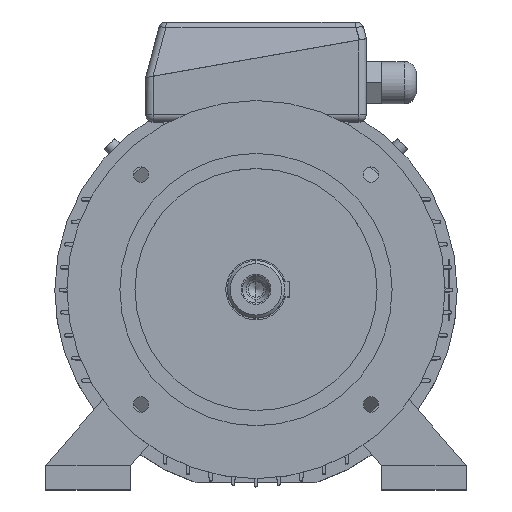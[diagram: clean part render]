
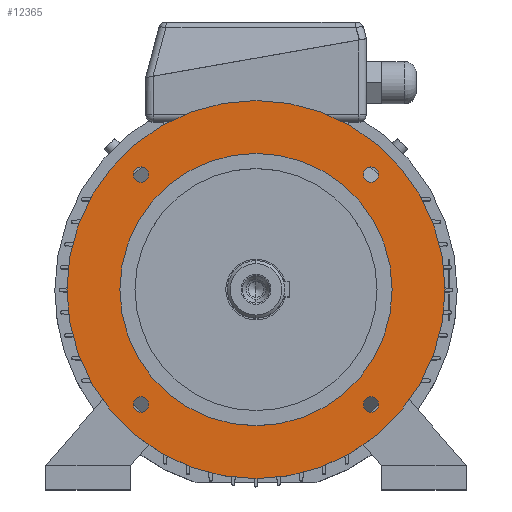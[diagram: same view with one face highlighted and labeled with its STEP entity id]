
A CAD part, top view. The second image highlights one B-rep face of the part: STEP entity #12365.
In plain terms, the highlighted planar face has unit normal (0, 0, 1).
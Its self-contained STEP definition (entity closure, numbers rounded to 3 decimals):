
#16497 = ORIENTED_EDGE ( 'NONE', *, *, #4752, .T. ) ;
#181 = CARTESIAN_POINT ( 'NONE',  ( 81.114, 76.014, 58. ) ) ;
#16644 = CARTESIAN_POINT ( 'NONE',  ( -90., 0., 58. ) ) ;
#370 = ORIENTED_EDGE ( 'NONE', *, *, #19986, .F. ) ;
#16780 = CARTESIAN_POINT ( 'NONE',  ( 90., 0., 58. ) ) ;
#437 = CIRCLE ( 'NONE', #438, 5.1 ) ;
#438 = AXIS2_PLACEMENT_3D ( 'NONE', #439, #440, #447 ) ;
#439 = CARTESIAN_POINT ( 'NONE',  ( 76.014, 76.014, 58. ) ) ;
#440 = DIRECTION ( 'NONE',  ( 0., 0., 1. ) ) ;
#447 = DIRECTION ( 'NONE',  ( 1., 0., 0. ) ) ;
#16939 = CIRCLE ( 'NONE', #16940, 90. ) ;
#16940 = AXIS2_PLACEMENT_3D ( 'NONE', #16941, #16942, #16943 ) ;
#16941 = CARTESIAN_POINT ( 'NONE',  ( 0., 0., 58. ) ) ;
#16942 = DIRECTION ( 'NONE',  ( 0., 0., 1. ) ) ;
#16943 = DIRECTION ( 'NONE',  ( 1., 0., 0. ) ) ;
#16984 = CARTESIAN_POINT ( 'NONE',  ( -81.114, 76.014, 58. ) ) ;
#17108 = EDGE_LOOP ( 'NONE', ( #16497, #4493 ) ) ;
#17232 = VERTEX_POINT ( 'NONE', #19898 ) ;
#17402 = EDGE_CURVE ( 'NONE', #13299, #13557, #20002, .T. ) ;
#1140 = CARTESIAN_POINT ( 'NONE',  ( 70.914, 76.014, 58. ) ) ;
#1173 = EDGE_LOOP ( 'NONE', ( #370, #19353 ) ) ;
#17793 = VERTEX_POINT ( 'NONE', #181 ) ;
#1453 = ORIENTED_EDGE ( 'NONE', *, *, #18062, .F. ) ;
#17839 = ORIENTED_EDGE ( 'NONE', *, *, #17402, .F. ) ;
#18062 = EDGE_CURVE ( 'NONE', #19112, #17793, #437, .T. ) ;
#1775 = CIRCLE ( 'NONE', #1783, 5.1 ) ;
#1783 = AXIS2_PLACEMENT_3D ( 'NONE', #1784, #1785, #1786 ) ;
#1784 = CARTESIAN_POINT ( 'NONE',  ( -76.014, -76.014, 58. ) ) ;
#1785 = DIRECTION ( 'NONE',  ( 0., 0., 1. ) ) ;
#1786 = DIRECTION ( 'NONE',  ( 1., 0., 0. ) ) ;
#18449 = ORIENTED_EDGE ( 'NONE', *, *, #13822, .F. ) ;
#2170 = ORIENTED_EDGE ( 'NONE', *, *, #12827, .F. ) ;
#2177 = VERTEX_POINT ( 'NONE', #5308 ) ;
#2261 = EDGE_CURVE ( 'NONE', #2600, #2177, #5619, .T. ) ;
#2352 = EDGE_CURVE ( 'NONE', #12562, #13891, #5849, .T. ) ;
#2467 = ORIENTED_EDGE ( 'NONE', *, *, #2352, .F. ) ;
#2600 = VERTEX_POINT ( 'NONE', #6732 ) ;
#2638 = EDGE_LOOP ( 'NONE', ( #2467, #2170 ) ) ;
#19067 = EDGE_LOOP ( 'NONE', ( #18449, #17839 ) ) ;
#2713 = ORIENTED_EDGE ( 'NONE', *, *, #2261, .F. ) ;
#19112 = VERTEX_POINT ( 'NONE', #1140 ) ;
#2881 = EDGE_CURVE ( 'NONE', #2177, #2600, #7664, .T. ) ;
#19353 = ORIENTED_EDGE ( 'NONE', *, *, #5659, .F. ) ;
#3198 = ORIENTED_EDGE ( 'NONE', *, *, #2881, .F. ) ;
#19898 = CARTESIAN_POINT ( 'NONE',  ( -125., 0., 58. ) ) ;
#19986 = EDGE_CURVE ( 'NONE', #5405, #6746, #1775, .T. ) ;
#20002 = CIRCLE ( 'NONE', #20003, 90. ) ;
#20003 = AXIS2_PLACEMENT_3D ( 'NONE', #20004, #20016, #20017 ) ;
#20004 = CARTESIAN_POINT ( 'NONE',  ( 0., 0., 58. ) ) ;
#20016 = DIRECTION ( 'NONE',  ( 0., 0., 1. ) ) ;
#20017 = DIRECTION ( 'NONE',  ( 1., 0., 0. ) ) ;
#3805 = EDGE_LOOP ( 'NONE', ( #3198, #2713 ) ) ;
#4093 = EDGE_CURVE ( 'NONE', #17232, #4538, #8536, .T. ) ;
#4493 = ORIENTED_EDGE ( 'NONE', *, *, #4093, .T. ) ;
#4538 = VERTEX_POINT ( 'NONE', #9085 ) ;
#4752 = EDGE_CURVE ( 'NONE', #4538, #17232, #9209, .T. ) ;
#5308 = CARTESIAN_POINT ( 'NONE',  ( 81.114, -76.014, 58. ) ) ;
#5405 = VERTEX_POINT ( 'NONE', #9653 ) ;
#5619 = CIRCLE ( 'NONE', #5620, 5.1 ) ;
#5620 = AXIS2_PLACEMENT_3D ( 'NONE', #5621, #5622, #5623 ) ;
#5621 = CARTESIAN_POINT ( 'NONE',  ( 76.014, -76.014, 58. ) ) ;
#5622 = DIRECTION ( 'NONE',  ( 0., 0., 1. ) ) ;
#5623 = DIRECTION ( 'NONE',  ( 1., 0., 0. ) ) ;
#5659 = EDGE_CURVE ( 'NONE', #6746, #5405, #9789, .T. ) ;
#5849 = CIRCLE ( 'NONE', #5850, 5.1 ) ;
#5850 = AXIS2_PLACEMENT_3D ( 'NONE', #5851, #5852, #5853 ) ;
#5851 = CARTESIAN_POINT ( 'NONE',  ( -76.014, 76.014, 58. ) ) ;
#5852 = DIRECTION ( 'NONE',  ( 0., 0., 1. ) ) ;
#5853 = DIRECTION ( 'NONE',  ( 1., 0., 0. ) ) ;
#6732 = CARTESIAN_POINT ( 'NONE',  ( 70.914, -76.014, 58. ) ) ;
#6746 = VERTEX_POINT ( 'NONE', #10712 ) ;
#7664 = CIRCLE ( 'NONE', #7665, 5.1 ) ;
#7665 = AXIS2_PLACEMENT_3D ( 'NONE', #7666, #7667, #7668 ) ;
#7666 = CARTESIAN_POINT ( 'NONE',  ( 76.014, -76.014, 58. ) ) ;
#7667 = DIRECTION ( 'NONE',  ( 0., 0., 1. ) ) ;
#7668 = DIRECTION ( 'NONE',  ( 1., 0., 0. ) ) ;
#8536 = CIRCLE ( 'NONE', #8537, 125. ) ;
#8537 = AXIS2_PLACEMENT_3D ( 'NONE', #8538, #8539, #8540 ) ;
#8538 = CARTESIAN_POINT ( 'NONE',  ( 0., 0., 58. ) ) ;
#8539 = DIRECTION ( 'NONE',  ( 0., 0., 1. ) ) ;
#8540 = DIRECTION ( 'NONE',  ( 1., 0., 0. ) ) ;
#9085 = CARTESIAN_POINT ( 'NONE',  ( 125., 0., 58. ) ) ;
#9209 = CIRCLE ( 'NONE', #9210, 125. ) ;
#9210 = AXIS2_PLACEMENT_3D ( 'NONE', #9211, #9212, #9213 ) ;
#9211 = CARTESIAN_POINT ( 'NONE',  ( 0., 0., 58. ) ) ;
#9212 = DIRECTION ( 'NONE',  ( 0., 0., 1. ) ) ;
#9213 = DIRECTION ( 'NONE',  ( 1., 0., 0. ) ) ;
#9653 = CARTESIAN_POINT ( 'NONE',  ( -70.914, -76.014, 58. ) ) ;
#9789 = CIRCLE ( 'NONE', #9790, 5.1 ) ;
#9790 = AXIS2_PLACEMENT_3D ( 'NONE', #9791, #9792, #9793 ) ;
#9791 = CARTESIAN_POINT ( 'NONE',  ( -76.014, -76.014, 58. ) ) ;
#9792 = DIRECTION ( 'NONE',  ( 0., 0., 1. ) ) ;
#9793 = DIRECTION ( 'NONE',  ( 1., 0., 0. ) ) ;
#10712 = CARTESIAN_POINT ( 'NONE',  ( -81.114, -76.014, 58. ) ) ;
#11006 = EDGE_CURVE ( 'NONE', #17793, #19112, #14616, .T. ) ;
#11432 = ORIENTED_EDGE ( 'NONE', *, *, #11006, .F. ) ;
#12080 = EDGE_LOOP ( 'NONE', ( #11432, #1453 ) ) ;
#12365 = ADVANCED_FACE ( 'NONE', ( #15842, #15843, #15844, #15845, #15846, #15847 ), #15848, .F. ) ;
#12562 = VERTEX_POINT ( 'NONE', #16005 ) ;
#12827 = EDGE_CURVE ( 'NONE', #13891, #12562, #16178, .T. ) ;
#13299 = VERTEX_POINT ( 'NONE', #16644 ) ;
#13557 = VERTEX_POINT ( 'NONE', #16780 ) ;
#13822 = EDGE_CURVE ( 'NONE', #13557, #13299, #16939, .T. ) ;
#13891 = VERTEX_POINT ( 'NONE', #16984 ) ;
#14616 = CIRCLE ( 'NONE', #14617, 5.1 ) ;
#14617 = AXIS2_PLACEMENT_3D ( 'NONE', #14618, #14619, #14620 ) ;
#14618 = CARTESIAN_POINT ( 'NONE',  ( 76.014, 76.014, 58. ) ) ;
#14619 = DIRECTION ( 'NONE',  ( 0., 0., 1. ) ) ;
#14620 = DIRECTION ( 'NONE',  ( 1., 0., 0. ) ) ;
#15842 = FACE_BOUND ( 'NONE', #12080, .T. ) ;
#15843 = FACE_BOUND ( 'NONE', #1173, .T. ) ;
#15844 = FACE_BOUND ( 'NONE', #19067, .T. ) ;
#15845 = FACE_OUTER_BOUND ( 'NONE', #17108, .T. ) ;
#15846 = FACE_BOUND ( 'NONE', #3805, .T. ) ;
#15847 = FACE_BOUND ( 'NONE', #2638, .T. ) ;
#15848 = PLANE ( 'NONE',  #15849 ) ;
#15849 = AXIS2_PLACEMENT_3D ( 'NONE', #15850, #15858, #15859 ) ;
#15850 = CARTESIAN_POINT ( 'NONE',  ( 0., 125., 58. ) ) ;
#15858 = DIRECTION ( 'NONE',  ( 0., 0., -1. ) ) ;
#15859 = DIRECTION ( 'NONE',  ( -1., 0., 0. ) ) ;
#16005 = CARTESIAN_POINT ( 'NONE',  ( -70.914, 76.014, 58. ) ) ;
#16178 = CIRCLE ( 'NONE', #16179, 5.1 ) ;
#16179 = AXIS2_PLACEMENT_3D ( 'NONE', #16180, #16181, #16182 ) ;
#16180 = CARTESIAN_POINT ( 'NONE',  ( -76.014, 76.014, 58. ) ) ;
#16181 = DIRECTION ( 'NONE',  ( 0., 0., 1. ) ) ;
#16182 = DIRECTION ( 'NONE',  ( 1., 0., 0. ) ) ;
